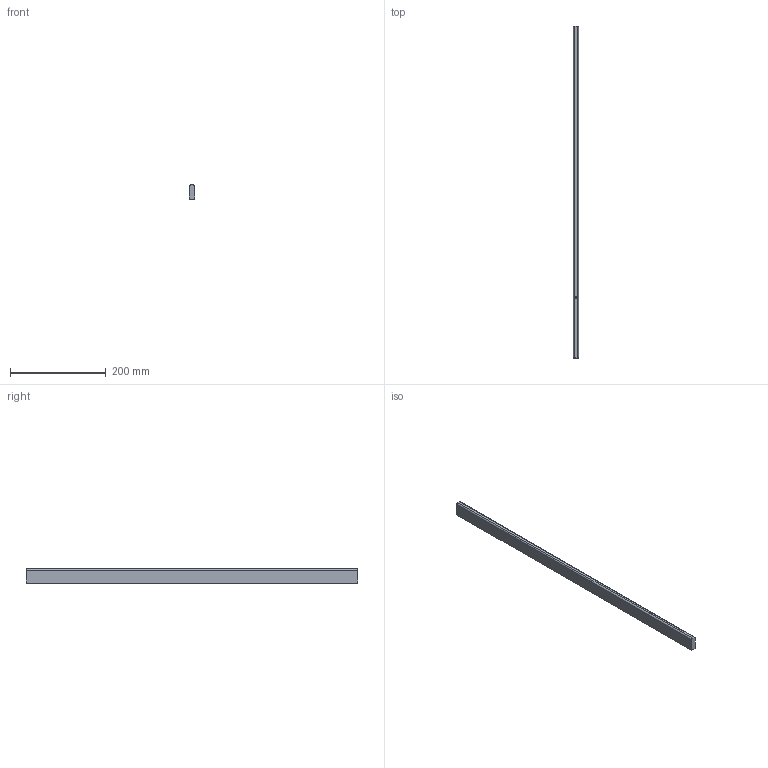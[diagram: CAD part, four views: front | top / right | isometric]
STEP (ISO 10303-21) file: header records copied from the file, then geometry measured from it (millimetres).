
FILE_DESCRIPTION (( 'STEP AP214' ), '1' );
FILE_NAME ('_Seitenreling_S760610200_RL695.step', '2010-09-06T14:51:48', ( 'grass' ), ( '' ), 'SwSTEP 2.0', 'SolidWorks 2010', '' );
FILE_SCHEMA (( 'AUTOMOTIVE_DESIGN' ));
Length unit declared in the file: millimetre
Products named in the file (1): _Seitenreling_S760610200_RL695
Bounding box: 10.5 x 695 x 30 mm (x, y, z)
Volume: 215321.3 mm3; surface area: 55665.9 mm2
Topology: 1 solids, 1 shells, 14 faces, 34 edges, 22 vertices
Faces by surface type: plane 8, cylinder 6
Entity records: 454 total; most frequent: DIRECTION 78, CARTESIAN_POINT 71, ORIENTED_EDGE 68, EDGE_CURVE 34, AXIS2_PLACEMENT_3D 29, VERTEX_POINT 22, VECTOR 20, LINE 20
